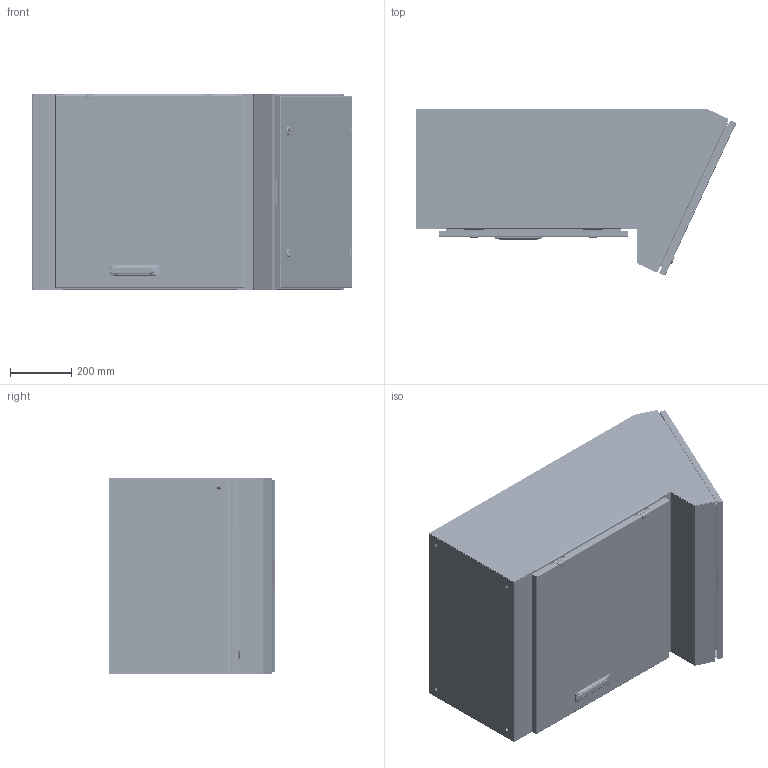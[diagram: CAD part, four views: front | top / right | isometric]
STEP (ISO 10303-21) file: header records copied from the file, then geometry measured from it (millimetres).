
FILE_DESCRIPTION((''),'2;1');
FILE_NAME('MODEL-167_ASM','2019-10-21T15:18:23',('joelb'),('SAGINAW CONTROL & ENGINEERING'),'CREO PARAMETRIC BY PTC INC, 2017260','CREO PARAMETRIC BY PTC INC, 2017260','');
FILE_SCHEMA(('AUTOMOTIVE_DESIGN { 1 0 10303 214 1 1 1 1 }'));
Length unit declared in the file: inch
Products named in the file (76): MODEL-167-FRNT; MODEL-167-R-SD; MODEL-167-L-SD; MODEL-167-BTM; MODEL-167-BCK; MODEL-167-SLP-DR; MODEL-167-GSKT-SLP; 100837; 100794_SHAFT; 100794_INSERT; 100794_CAM; 100794_NUT; 100794_SCREW; 100794_ASM; 126392; 126397; 126392_ASM; 126395; 102483; 101226; 101389; 102140; MODEL-167-SLP-DOOR-ASSY_ASM; MODEL-167-FRNT-DR; 100882; 111267; MODEL-167-ROD-F-UPR; 128146; 128145; 128144; 102482; MODEL-167-ROD-F-UPR_ASM; 128143; 112504; MODEL-167-ROD-F-LWR; MODEL-167-ROD-F-LWR_ASM; MODEL-167-GSKT-FRNT; 100796_BASE; 100796_WASHER; 100796_SHAFT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
Assembly tree (140 placements, depth 4):
  MODEL-167_ASM
    MODEL-167-FRNT
    MODEL-167-R-SD
    MODEL-167-L-SD
    MODEL-167-BTM
    MODEL-167-BCK
    MODEL-167-SLP-DOOR-ASSY_ASM
      MODEL-167-SLP-DR
      MODEL-167-GSKT-SLP
      100837  x3
      100794_ASM  x2
        100794_SHAFT
        100794_INSERT
        100794_CAM
        100794_NUT
        100794_SCREW
      126392_ASM  x2
        126392
        126397
      126395  x2
      102483  x6
      101226  x2
      101389  x2
      102140  x2
    MODEL-167-FRNT-DOOR-ASSY_ASM
      MODEL-167-FRNT-DR
      100837  x5
      100882  x4
      111267
      MODEL-167-ROD-F-UPR_ASM
        MODEL-167-ROD-F-UPR
        128146
        128145
        128144
        102482  x2
      128143  x2
      112504  x2
      MODEL-167-ROD-F-LWR_ASM
        MODEL-167-ROD-F-LWR
        128146
        128145
        128144
        102482  x2
      MODEL-167-GSKT-FRNT
      126392_ASM  x2
        126392
        126397
      126395  x2
      102483  x6
      101389  x2
      101226  x2
      102140  x2
      100796_ASM
        100796_BASE
        100796_WASHER
        100796_SHAFT
        100796_PIN
        100796_HANDLE
        100796_CAP
        100796_PLATE
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Bounding box: 1047.36 x 545.09 x 641.35 mm (x, y, z)
Volume: 7804120.2 mm3; surface area: 7271695.2 mm2
Topology: 134 solids, 134 shells, 8765 faces, 22058 edges, 13661 vertices
Faces by surface type: plane 3841, cylinder 2661, bspline 1145, torus 624, cone 281, sphere 213
Entity records: 222815 total; most frequent: CARTESIAN_POINT 65909, ORIENTED_EDGE 21744, DIRECTION 21558, EDGE_CURVE 10872, PRESENTATION_STYLE_ASSIGNMENT 10743, STYLED_ITEM 10209, CURVE_STYLE 9745, AXIS2_PLACEMENT_3D 7839
